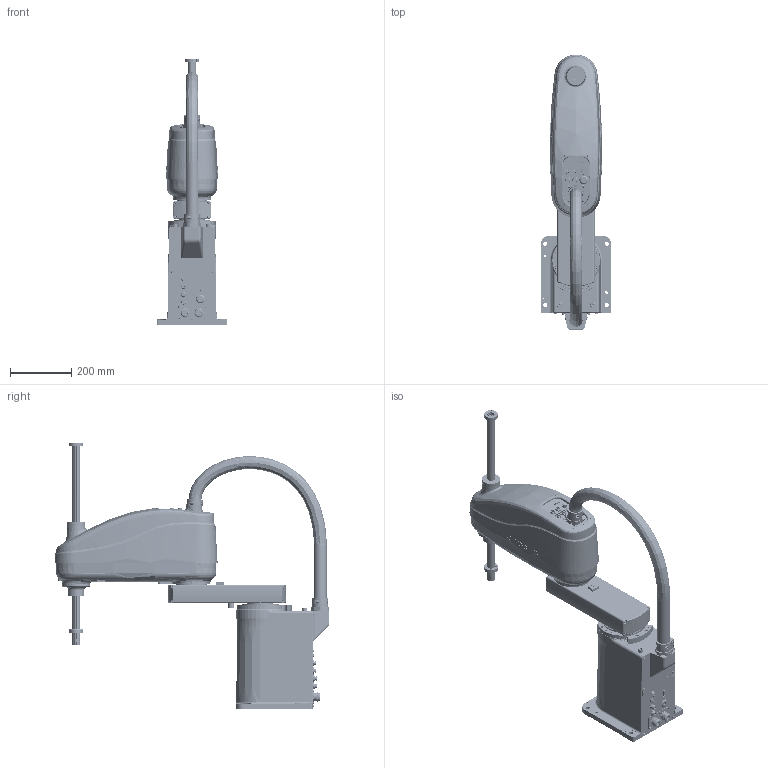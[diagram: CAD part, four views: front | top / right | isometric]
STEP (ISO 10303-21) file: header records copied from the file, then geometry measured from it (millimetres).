
FILE_DESCRIPTION (( 'STEP AP214' ), '1' );
FILE_NAME ('CRP-RS06-10Z30 ×°ÅäÌå2.STEP', '2023-07-03T02:34:25', ( '' ), ( '' ), 'SwSTEP 2.0', 'SolidWorks 2016', '' );
FILE_SCHEMA (( 'AUTOMOTIVE_DESIGN' ));
Length unit declared in the file: millimetre
Products named in the file (7): 萇擢^Harness_1-CRP-RS06-10Z30 蚾饜极1; RS0810-04 J4; RS0610-01 J1; CRP-RS06-10Z30 蚾饜极2; Harness_1-CRP-RS06-10Z30 蚾饜极1; RS0610-02 J2; RS0810-03 J3
Assembly tree (6 placements, depth 3):
  CRP-RS06-10Z30 蚾饜极2
    RS0610-01 J1
    RS0610-02 J2
    RS0810-03 J3
    RS0810-04 J4
    Harness_1-CRP-RS06-10Z30 蚾饜极1
      萇擢^Harness_1-CRP-RS06-10Z30 蚾饜极1
Bounding box: 230 x 895.71 x 868 mm (x, y, z)
Volume: 32296114.7 mm3; surface area: 1367989.5 mm2
Topology: 5 solids, 102 shells, 5303 faces, 13189 edges, 8241 vertices
Faces by surface type: plane 2264, cylinder 1497, cone 668, bspline 659, torus 207, sphere 8
Entity records: 255778 total; most frequent: CARTESIAN_POINT 89452, ORIENTED_EDGE 26034, DIRECTION 25233, EDGE_CURVE 13017, AXIS2_PLACEMENT_3D 9750, VERTEX_POINT 8229, EDGE_LOOP 5982, LINE 5733
